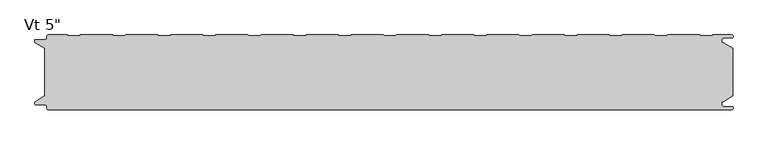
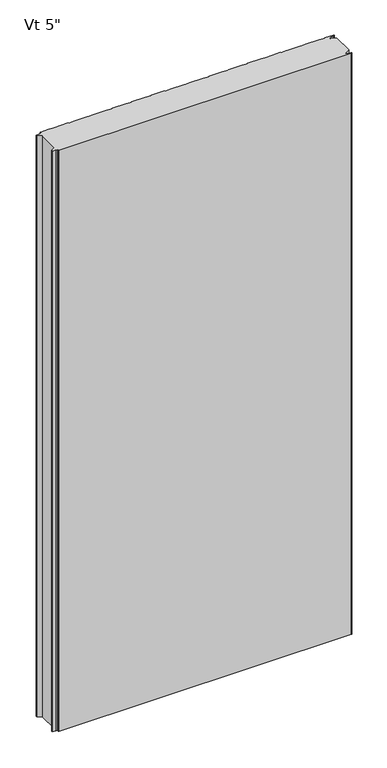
"""IFC4 building model written with IfcOpenShell, lengths in millimetres: plate geometry."""

import ifcopenshell
import ifcopenshell.guid

model = None  # the IFC model being written
_history = None  # IfcOwnerHistory: only IFC2X3 demands one
_inside = {}  # id of a spatial element -> (the spatial element, [elements in it])
_under = {}  # id of a project, library or spatial element -> (it, [spatial elements below it])
_declared = {}  # id of a project -> (the project, [libraries it declares])
_typed = {}  # id of a type object -> (the type object, [elements of that type])
_made_of = {}  # id of a material, layer set ... -> (it, [elements and type objects made of it])


def new_model(schema):
    """Start an empty IFC model of exactly this schema.

    Asked for "IFC4X3", IfcOpenShell would pick the latest addendum, in which some entities
    have other attributes; the version numbers below select the first issue.
    IFC2X3 requires an IfcOwnerHistory on every rooted entity: one is made here for all.
    """
    global model, _history
    if schema == "IFC4X3":
        model = ifcopenshell.file(schema_version=(4, 3, 0, 0))
    else:
        model = ifcopenshell.file(schema=schema)
    _inside.clear()
    _under.clear()
    _declared.clear()
    _typed.clear()
    _made_of.clear()
    _history = None
    if model.schema == "IFC2X3":
        org = make("IfcOrganization", Name="unknown")
        user = make(
            "IfcPersonAndOrganization",
            ThePerson=make("IfcPerson", FamilyName="unknown"),
            TheOrganization=org,
        )
        app = make(
            "IfcApplication",
            ApplicationDeveloper=org,
            Version="unknown",
            ApplicationFullName="unknown",
            ApplicationIdentifier="unknown",
        )
        _history = make(
            "IfcOwnerHistory",
            OwningUser=user,
            OwningApplication=app,
            ChangeAction="ADDED",
            CreationDate=0,
        )
    return model


def make(cls, **values):
    """One entity of the class cls with the attributes given. An attribute that is None is left unset."""
    return model.create_entity(
        cls, **{name: value for name, value in values.items() if value is not None}
    )


def rooted(cls, **values):
    """An entity with a GlobalId (a new one), such as an element, a storey or a relation."""
    return make(cls, GlobalId=ifcopenshell.guid.new(), OwnerHistory=_history, **values)


def si_unit(unit_type, name, prefix=None):
    """IfcSIUnit, for example si_unit("LENGTHUNIT", "METRE", prefix="MILLI")."""
    return make("IfcSIUnit", UnitType=unit_type, Prefix=prefix, Name=name)


def assignment(units):
    """IfcUnitAssignment: the units of a project."""
    return None if units is None else make("IfcUnitAssignment", Units=units)


def point(xyz):
    """IfcCartesianPoint."""
    return None if xyz is None else make("IfcCartesianPoint", Coordinates=xyz)


def direction(xyz):
    """IfcDirection."""
    return None if xyz is None else make("IfcDirection", DirectionRatios=xyz)


def frame(location, z_axis=None, x_axis=None):
    """IfcAxis2Placement3D, a coordinate frame: its origin and axes. An axis left out is left unset."""
    return make(
        "IfcAxis2Placement3D",
        Location=point(location),
        Axis=direction(z_axis),
        RefDirection=direction(x_axis),
    )


def origin():
    """The frame at (0, 0, 0) with its axes left unset."""
    return frame((0.0, 0.0, 0.0))


def place(relative_to, where):
    """IfcLocalPlacement: puts the frame where relative to a parent placement (None: the world)."""
    return make(
        "IfcLocalPlacement", PlacementRelTo=relative_to, RelativePlacement=where
    )


def context(
    kind, dimensions, precision=None, world=None, true_north=None, identifier=None
):
    """IfcGeometricRepresentationContext, for example the 3D "Model" context."""
    return make(
        "IfcGeometricRepresentationContext",
        ContextIdentifier=identifier,
        ContextType=kind,
        CoordinateSpaceDimension=dimensions,
        Precision=precision,
        WorldCoordinateSystem=world,
        TrueNorth=true_north,
    )


def project(units=None, contexts=None):
    """IfcProject with its units and contexts."""
    return rooted(
        "IfcProject",
        Name="project",
        RepresentationContexts=contexts,
        UnitsInContext=assignment(units),
    )


def spatial(cls, under=None, at=None, **own):
    """A site, building, storey or space (cls), placed at a placement, below another one or the project."""
    s = rooted(cls, ObjectPlacement=at, **own)
    if under is not None:
        _under.setdefault(under.id(), (under, []))[1].append(s)
    return s


def polyline(points):
    """IfcPolyline through the points."""
    return make("IfcPolyline", Points=[point(p) for p in points])


def circle_curve(where, radius):
    """IfcCircle in the frame where."""
    return make("IfcCircle", Position=where, Radius=radius)


def shape(context_of_items, identifier, shape_type, items):
    """IfcShapeRepresentation: the items that make up one representation, for example the "Body"."""
    return make(
        "IfcShapeRepresentation",
        ContextOfItems=context_of_items,
        RepresentationIdentifier=identifier,
        RepresentationType=shape_type,
        Items=items,
    )


def source(mapping_origin, context_of_items, identifier, shape_type, items):
    """IfcRepresentationMap: a shape defined once, which mapped items show again and again."""
    return make(
        "IfcRepresentationMap",
        MappingOrigin=mapping_origin,
        MappedRepresentation=shape(context_of_items, identifier, shape_type, items),
    )


def transform(
    local_origin,
    x_axis=None,
    y_axis=None,
    z_axis=None,
    scale=None,
    scale2=None,
    scale3=None,
    uniform=True,
):
    """IfcCartesianTransformationOperator3D, or its non-uniform kind. x_axis, y_axis, z_axis: its Axis1, 2, 3."""
    if uniform:
        return make(
            "IfcCartesianTransformationOperator3D",
            Axis1=direction(x_axis),
            Axis2=direction(y_axis),
            LocalOrigin=point(local_origin),
            Scale=scale,
            Axis3=direction(z_axis),
        )
    return make(
        "IfcCartesianTransformationOperator3DnonUniform",
        Axis1=direction(x_axis),
        Axis2=direction(y_axis),
        LocalOrigin=point(local_origin),
        Scale=scale,
        Axis3=direction(z_axis),
        Scale2=scale2,
        Scale3=scale3,
    )


def mapped(mapping_source, mapping_target):
    """IfcMappedItem: shows the shape of a source again, moved by a transform."""
    return make(
        "IfcMappedItem", MappingSource=mapping_source, MappingTarget=mapping_target
    )


def made_of(thing, what):
    """Note that an element or type object is made of a material, layer set ...; save() writes the relation."""
    if what is not None:
        _made_of.setdefault(what.id(), (what, []))[1].append(thing)
    return thing


def element(
    cls,
    number,
    at=None,
    inside=None,
    cuts=None,
    type_object=None,
    material=None,
    context=None,
    identifier="Body",
    shape_type=None,
    held_by="IfcProductDefinitionShape",
    body=None,
    shapes=None,
    **own,
):
    """One element of the class cls, such as IfcWall. Its Tag is "e" and its number.

    at: its placement. inside: the storey or other place that contains it. cuts: it is an
    opening in that element (IfcRelVoidsElement). A single representation is given by context,
    identifier, shape_type and body (its items); several are given by shapes. held_by: the class
    of the entity that holds the representations. save() writes the other relations.
    """
    e = rooted(cls, Tag="e%d" % number, ObjectPlacement=at, **own)
    if body is not None:
        shapes = [shape(context, identifier, shape_type, body)]
    if shapes is not None:
        e.Representation = make(held_by, Representations=shapes)
    if inside is not None:
        _inside.setdefault(inside.id(), (inside, []))[1].append(e)
    if cuts is not None:
        rooted(
            "IfcRelVoidsElement", RelatingBuildingElement=cuts, RelatedOpeningElement=e
        )
    if type_object is not None:
        _typed.setdefault(type_object.id(), (type_object, []))[1].append(e)
    return made_of(e, material)


def aggregate(whole, parts):
    """IfcRelAggregates: a whole, such as a stair, and the parts it consists of."""
    return rooted("IfcRelAggregates", RelatingObject=whole, RelatedObjects=parts)


def save(model, path):
    """Write the relations noted so far, then the file.

    IfcRelAggregates (storeys below a building ...), IfcRelContainedInSpatialStructure (elements
    in a storey), IfcRelDefinesByType, IfcRelAssociatesMaterial and IfcRelDeclares: one each for
    every whole, place, type object, material and project.
    """
    for whole, parts in _under.values():
        aggregate(whole, parts)
    for where, things in _inside.values():
        rooted(
            "IfcRelContainedInSpatialStructure",
            RelatedElements=things,
            RelatingStructure=where,
        )
    for kind, things in _typed.values():
        rooted("IfcRelDefinesByType", RelatedObjects=things, RelatingType=kind)
    for what, things in _made_of.values():
        rooted("IfcRelAssociatesMaterial", RelatedObjects=things, RelatingMaterial=what)
    for by, libraries in _declared.values():
        rooted("IfcRelDeclares", RelatingContext=by, RelatedDefinitions=libraries)
    model.write(path)


def plane_surface(at):
    """IfcPlane: the flat surface through the origin of the frame at, square to its z axis."""
    return make("IfcPlane", Position=at)


def cylinder_surface(at, radius):
    """IfcCylindricalSurface: all points at the distance radius from the z axis of the frame at."""
    return make("IfcCylindricalSurface", Position=at, Radius=radius)


def revolved_surface(curve, axis_point, axis_direction):
    """IfcSurfaceOfRevolution: the curve turned about the line through axis_point along axis_direction."""
    return make(
        "IfcSurfaceOfRevolution",
        SweptCurve=make("IfcArbitraryOpenProfileDef", ProfileType="CURVE", Curve=curve),
        AxisPosition=make("IfcAxis1Placement", Location=point(axis_point), Axis=direction(axis_direction)),
    )


def advanced_brep(points, edges, surfaces, faces):
    """IfcAdvancedBrep: a solid bounded by faces that lie on surfaces and meet in shared edges.

    An edge is (start, end): straight between two places in points (the first is 0);
    or (start, end, curve); or (start, end, curve, False) where it runs against its curve.
    A face is (place in surfaces, loops), or (place, loops, False) where it looks against
    its surface's normal. A loop lists edges by number (the first is 1), with a minus sign
    where the edge is run from its end to its start. The first loop is the outer one.
    """
    corners = [point(p) for p in points]
    vertices = [make("IfcVertexPoint", VertexGeometry=c) for c in corners]
    made = []
    for start, end, *more in edges:
        made.append(
            make(
                "IfcEdgeCurve",
                EdgeStart=vertices[start],
                EdgeEnd=vertices[end],
                EdgeGeometry=more[0] if more else make("IfcPolyline", Points=[corners[start], corners[end]]),
                SameSense=more[1] if len(more) > 1 else True,
            )
        )
    hull = []
    for where, loops, *sense in faces:
        bounds = []
        for j, loop in enumerate(loops):
            ring = [make("IfcOrientedEdge", EdgeElement=made[abs(k) - 1], Orientation=k > 0) for k in loop]
            bounds.append(
                make(
                    "IfcFaceOuterBound" if j == 0 else "IfcFaceBound",
                    Bound=make("IfcEdgeLoop", EdgeList=ring),
                    Orientation=True,
                )
            )
        hull.append(make("IfcAdvancedFace", Bounds=bounds, FaceSurface=surfaces[where], SameSense=sense[0] if sense else True))
    return make("IfcAdvancedBrep", Outer=make("IfcClosedShell", CfsFaces=hull))


def plate_694a5b55(model_context):
    return source(origin(), model_context, "Body", "AdvancedBrep", [
        advanced_brep(
        [(-572.4125501, -124.0227194, 2400.0), (-570.4352761, -125.9999935, 2400.0), (574.5475652, -126.0, 2400.0), (576.5248337, -124.0227315, 2400.0), (576.5248337, -122.9806329, 2400.0), (574.5475652, -121.0033643, 2400.0), (560.3591802, -121.0033643, 2400.0), (557.7713036, -118.4154878, 2400.0), (557.7713036, -114.0950697, 2400.0), (557.1628365, -113.5060762, 2400.0), (554.7857432, -113.5060762, 2400.0), (554.7857432, -112.5066023, 2400.0), (560.2280123, -112.5066023, 2400.0), (576.2625, -103.2490865, 2400.0), (576.2625, -23.7509179, 2400.0), (560.2280123, -14.4934021, 2400.0), (554.7857432, -14.4934021, 2400.0), (554.7857432, -13.4939282, 2400.0), (557.1628365, -13.4939282, 2400.0), (557.7713036, -12.9049347, 2400.0), (557.7713036, -8.5845165, 2400.0), (560.3591802, -5.99664, 2400.0), (574.5475652, -5.99664, 2400.0), (576.5248337, -4.0193715, 2400.0), (576.5248337, -2.9772729, 2400.0), (574.5475652, -1.0000044, 2400.0), (542.3760351, -1.0000044, 2400.0), (541.3035142, -2.1911595, 2400.0), (521.5205195, -2.1911595, 2400.0), (520.4479947, -1.0, 2400.0), (466.7534187, -1.0, 2400.0), (465.6808939, -2.1911595, 2400.0), (445.8978992, -2.1911595, 2400.0), (444.8253744, -1.0, 2400.0), (391.1307985, -1.0, 2400.0), (390.0582736, -2.1911595, 2400.0), (370.275279, -2.1911595, 2400.0), (369.2027541, -1.0, 2400.0), (315.5081782, -1.0, 2400.0), (314.4356534, -2.1911595, 2400.0), (294.6526587, -2.1911595, 2400.0), (293.5801339, -1.0, 2400.0), (239.885558, -1.0, 2400.0), (238.8130331, -2.1911595, 2400.0), (219.0300384, -2.1911595, 2400.0), (217.9575136, -1.0, 2400.0), (164.2629377, -1.0, 2400.0), (163.1904129, -2.1911595, 2400.0), (143.4074182, -2.1911595, 2400.0), (142.3348933, -1.0, 2400.0), (88.6403174, -1.0, 2400.0), (87.5677926, -2.1911595, 2400.0), (67.7847979, -2.1911595, 2400.0), (66.7122731, -1.0, 2400.0), (13.0176972, -1.0, 2400.0), (11.9451723, -2.1911595, 2400.0), (-7.8378224, -2.1911595, 2400.0), (-8.9103472, -1.0, 2400.0), (-62.6049231, -1.0, 2400.0), (-63.6774479, -2.1911595, 2400.0), (-83.4604426, -2.1911595, 2400.0), (-84.5329675, -1.0, 2400.0), (-138.2275434, -1.0, 2400.0), (-139.3000682, -2.1911595, 2400.0), (-159.0830629, -2.1911595, 2400.0), (-160.1555877, -1.0, 2400.0), (-213.8501636, -1.0, 2400.0), (-214.9226885, -2.1911595, 2400.0), (-234.7056831, -2.1911595, 2400.0), (-235.778208, -1.0, 2400.0), (-289.4727839, -1.0, 2400.0), (-290.5453087, -2.1911595, 2400.0), (-310.3283034, -2.1911595, 2400.0), (-311.4008282, -1.0, 2400.0), (-365.0954042, -1.0, 2400.0), (-366.167929, -2.1911595, 2400.0), (-385.9509237, -2.1911595, 2400.0), (-387.0234485, -1.0, 2400.0), (-440.7180244, -1.0, 2400.0), (-441.7905493, -2.1911595, 2400.0), (-461.5735439, -2.1911595, 2400.0), (-462.6460688, -1.0, 2400.0), (-516.3406447, -1.0, 2400.0), (-517.4131695, -2.1911595, 2400.0), (-537.1961642, -2.1911595, 2400.0), (-538.268689, -1.0000109, 2400.0), (-570.4352761, -1.0000109, 2400.0), (-572.4125501, -2.9772849, 2400.0), (-572.4125501, -5.2691749, 2400.0), (-576.3898173, -9.246442, 2400.0), (-591.9862417, -9.246442, 2400.0), (-592.5741186, -9.8343189, 2400.0), (-592.5741186, -12.9058679, 2400.0), (-591.986242, -13.4937446, 2400.0), (-589.6312064, -13.4937446, 2400.0), (-589.6312064, -14.4937446, 2400.0), (-591.9207851, -14.4937446, 2400.0), (-576.2625, -23.7509179, 2400.0), (-576.2625, -103.2490865, 2400.0), (-591.9207851, -112.5062598, 2400.0), (-589.6312064, -112.5062598, 2400.0), (-589.6312064, -113.5062598, 2400.0), (-591.986242, -113.5062598, 2400.0), (-592.5741186, -114.0941365, 2400.0), (-592.5741186, -117.1656854, 2400.0), (-591.9862417, -117.7535623, 2400.0), (-576.3898173, -117.7535623, 2400.0), (-572.4125501, -121.7308295, 2400.0), (-572.4125501, -124.0227194, 0.0), (-572.4125501, -121.7308295, 0.0), (-576.3898173, -117.7535623, 0.0), (-591.9862417, -117.7535623, 0.0), (-592.5741186, -117.1656854, 0.0), (-592.5741186, -114.0941365, 0.0), (-591.986242, -113.5062598, 0.0), (-589.6312064, -113.5062598, 0.0), (-589.6312064, -112.5062598, 0.0), (-591.9207851, -112.5062598, 0.0), (-576.2625, -103.2490865, 0.0), (-576.2625, -23.7509179, 0.0), (-591.9207851, -14.4937446, 0.0), (-589.6312064, -14.4937446, 0.0), (-589.6312064, -13.4937446, 0.0), (-591.986242, -13.4937446, 0.0), (-592.5741186, -12.9058679, 0.0), (-592.5741186, -9.8343189, 0.0), (-591.9862417, -9.246442, 0.0), (-576.3898173, -9.246442, 0.0), (-572.4125501, -5.2691749, 0.0), (-572.4125501, -2.9772849, 0.0), (-570.4352761, -1.0000109, 0.0), (-538.268689, -1.0000109, 0.0), (-537.1961642, -2.1911595, 0.0), (-517.4131695, -2.1911595, 0.0), (-516.3406447, -1.0, 0.0), (-462.6460688, -1.0, 0.0), (-461.5735439, -2.1911595, 0.0), (-441.7905493, -2.1911595, 0.0), (-440.7180244, -1.0, 0.0), (-387.0234485, -1.0, 0.0), (-385.9509237, -2.1911595, 0.0), (-366.167929, -2.1911595, 0.0), (-365.0954042, -1.0, 0.0), (-311.4008282, -1.0, 0.0), (-310.3283034, -2.1911595, 0.0), (-290.5453087, -2.1911595, 0.0), (-289.4727839, -1.0, 0.0), (-235.778208, -1.0, 0.0), (-234.7056831, -2.1911595, 0.0), (-214.9226885, -2.1911595, 0.0), (-213.8501636, -1.0, 0.0), (-160.1555877, -1.0, 0.0), (-159.0830629, -2.1911595, 0.0), (-139.3000682, -2.1911595, 0.0), (-138.2275434, -1.0, 0.0), (-84.5329675, -1.0, 0.0), (-83.4604426, -2.1911595, 0.0), (-63.6774479, -2.1911595, 0.0), (-62.6049231, -1.0, 0.0), (-8.9103472, -1.0, 0.0), (-7.8378224, -2.1911595, 0.0), (11.9451723, -2.1911595, 0.0), (13.0176972, -1.0, 0.0), (66.7122731, -1.0, 0.0), (67.7847979, -2.1911595, 0.0), (87.5677926, -2.1911595, 0.0), (88.6403174, -1.0, 0.0), (142.3348933, -1.0, 0.0), (143.4074182, -2.1911595, 0.0), (163.1904129, -2.1911595, 0.0), (164.2629377, -1.0, 0.0), (217.9575136, -1.0, 0.0), (219.0300384, -2.1911595, 0.0), (238.8130331, -2.1911595, 0.0), (239.885558, -1.0, 0.0), (293.5801339, -1.0, 0.0), (294.6526587, -2.1911595, 0.0), (314.4356534, -2.1911595, 0.0), (315.5081782, -1.0, 0.0), (369.2027541, -1.0, 0.0), (370.275279, -2.1911595, 0.0), (390.0582736, -2.1911595, 0.0), (391.1307985, -1.0, 0.0), (444.8253744, -1.0, 0.0), (445.8978992, -2.1911595, 0.0), (465.6808939, -2.1911595, 0.0), (466.7534187, -1.0, 0.0), (520.4479947, -1.0, 0.0), (521.5205195, -2.1911595, 0.0), (541.3035142, -2.1911595, 0.0), (542.3760351, -1.0000044, 0.0), (574.5475652, -1.0000044, 0.0), (576.5248337, -2.9772729, 0.0), (576.5248337, -4.0193715, 0.0), (574.5475652, -5.99664, 0.0), (560.3591802, -5.99664, 0.0), (557.7713036, -8.5845165, 0.0), (557.7713036, -12.9049347, 0.0), (557.1628365, -13.4939282, 0.0), (554.7857432, -13.4939282, 0.0), (554.7857432, -14.4934021, 0.0), (560.2280123, -14.4934021, 0.0), (576.2625, -23.7509179, 0.0), (576.2625, -103.2490865, 0.0), (560.2280123, -112.5066023, 0.0), (554.7857432, -112.5066023, 0.0), (554.7857432, -113.5060762, 0.0), (557.1628365, -113.5060762, 0.0), (557.7713036, -114.0950697, 0.0), (557.7713036, -118.4154878, 0.0), (560.3591802, -121.0033643, 0.0), (574.5475652, -121.0033643, 0.0), (576.5248337, -122.9806329, 0.0), (576.5248337, -124.0227315, 0.0), (574.5475652, -126.0, 0.0), (-570.4352761, -126.0, 0.0)],
        [
            (0, 1, circle_curve(frame((-570.4352761, -124.0227194, 2400.0), z_axis=(0.0, 0.0, 1.0), x_axis=(-1.0, 0.0, 0.0)), 1.977274)),
            (1, 2),
            (2, 3, circle_curve(frame((574.5475652, -124.0227315, 2400.0), z_axis=(0.0, 0.0, 1.0), x_axis=(-1.0, 0.0, 0.0)), 1.9772685)),
            (3, 4),
            (4, 5, circle_curve(frame((574.5475652, -122.9806329, 2400.0), z_axis=(0.0, 0.0, 1.0), x_axis=(-1.0, 0.0, 0.0)), 1.9772685)),
            (5, 6),
            (6, 7, circle_curve(frame((560.3591802, -118.4154878, 2400.0), z_axis=(0.0, 0.0, -1.0), x_axis=(-1.0, 0.0, 0.0)), 2.5878765)),
            (7, 8),
            (8, 9, circle_curve(frame((557.1819985, -114.0950697, 2400.0), z_axis=(0.0, 0.0, 1.0), x_axis=(-1.0, 0.0, 0.0)), 0.5893051)),
            (9, 10),
            (10, 11),
            (11, 12),
            (12, 13),
            (13, 14),
            (14, 15),
            (15, 16),
            (16, 17),
            (17, 18),
            (18, 19, circle_curve(frame((557.1819985, -12.9049347, 2400.0), z_axis=(0.0, 0.0, 1.0), x_axis=(0.0, 1.0, 0.0)), 0.5893051)),
            (19, 20),
            (20, 21, circle_curve(frame((560.3591802, -8.5845165, 2400.0), z_axis=(0.0, 0.0, -1.0), x_axis=(0.0, 1.0, 0.0)), 2.5878765)),
            (21, 22),
            (22, 23, circle_curve(frame((574.5475652, -4.0193715, 2400.0), z_axis=(0.0, 0.0, 1.0), x_axis=(0.0, 1.0, 0.0)), 1.9772685)),
            (23, 24),
            (24, 25, circle_curve(frame((574.5475652, -2.9772729, 2400.0), z_axis=(0.0, 0.0, 1.0), x_axis=(0.0, 1.0, 0.0)), 1.9772685)),
            (25, 26),
            (26, 27),
            (27, 28),
            (28, 29),
            (29, 30),
            (30, 31),
            (31, 32),
            (32, 33),
            (33, 34),
            (34, 35),
            (35, 36),
            (36, 37),
            (37, 38),
            (38, 39),
            (39, 40),
            (40, 41),
            (41, 42),
            (42, 43),
            (43, 44),
            (44, 45),
            (45, 46),
            (46, 47),
            (47, 48),
            (48, 49),
            (49, 50),
            (50, 51),
            (51, 52),
            (52, 53),
            (53, 54),
            (54, 55),
            (55, 56),
            (56, 57),
            (57, 58),
            (58, 59),
            (59, 60),
            (60, 61),
            (61, 62),
            (62, 63),
            (63, 64),
            (64, 65),
            (65, 66),
            (66, 67),
            (67, 68),
            (68, 69),
            (69, 70),
            (70, 71),
            (71, 72),
            (72, 73),
            (73, 74),
            (74, 75),
            (75, 76),
            (76, 77),
            (77, 78),
            (78, 79),
            (79, 80),
            (80, 81),
            (81, 82),
            (82, 83),
            (83, 84),
            (84, 85),
            (85, 86),
            (86, 87, circle_curve(frame((-570.4352761, -2.9772849, 2400.0), z_axis=(0.0, 0.0, 1.0), x_axis=(0.0, 1.0, 0.0)), 1.977274)),
            (87, 88),
            (88, 89, circle_curve(frame((-576.3898173, -5.2691749, 2400.0), z_axis=(0.0, 0.0, -1.0), x_axis=(0.0, 1.0, 0.0)), 3.9772671)),
            (89, 90),
            (90, 91, circle_curve(frame((-591.9862417, -9.8343189, 2400.0), z_axis=(0.0, 0.0, 1.0), x_axis=(0.0, 1.0, 0.0)), 0.5878769)),
            (91, 92),
            (92, 93, circle_curve(frame((-591.986242, -12.9058679, 2400.0), z_axis=(0.0, 0.0, 1.0), x_axis=(0.0, 1.0, 0.0)), 0.5878766)),
            (93, 94),
            (94, 95),
            (95, 96),
            (96, 97),
            (97, 98),
            (98, 99),
            (99, 100),
            (100, 101),
            (101, 102),
            (102, 103, circle_curve(frame((-591.986242, -114.0941365, 2400.0), z_axis=(0.0, 0.0, 1.0), x_axis=(-1.0, 0.0, 0.0)), 0.5878766)),
            (103, 104),
            (104, 105, circle_curve(frame((-591.9862417, -117.1656854, 2400.0), z_axis=(0.0, 0.0, 1.0), x_axis=(-1.0, 0.0, 0.0)), 0.5878769)),
            (105, 106),
            (106, 107, circle_curve(frame((-576.3898173, -121.7308295, 2400.0), z_axis=(0.0, 0.0, -1.0), x_axis=(-1.0, 0.0, 0.0)), 3.9772671)),
            (107, 0),
            (108, 109),
            (109, 110, circle_curve(frame((-576.3898173, -121.7308295, 0.0), z_axis=(0.0, 0.0, 1.0), x_axis=(-1.0, 0.0, 0.0)), 3.9772671)),
            (110, 111),
            (111, 112, circle_curve(frame((-591.9862417, -117.1656854, 0.0), z_axis=(0.0, 0.0, -1.0), x_axis=(-1.0, 0.0, 0.0)), 0.5878769)),
            (112, 113),
            (113, 114, circle_curve(frame((-591.986242, -114.0941365, 0.0), z_axis=(0.0, 0.0, -1.0), x_axis=(-1.0, 0.0, 0.0)), 0.5878766)),
            (114, 115),
            (115, 116),
            (116, 117),
            (117, 118),
            (118, 119),
            (119, 120),
            (120, 121),
            (121, 122),
            (122, 123),
            (123, 124, circle_curve(frame((-591.986242, -12.9058679, 0.0), z_axis=(0.0, 0.0, -1.0), x_axis=(0.0, 1.0, 0.0)), 0.5878766)),
            (124, 125),
            (125, 126, circle_curve(frame((-591.9862417, -9.8343189, 0.0), z_axis=(0.0, 0.0, -1.0), x_axis=(0.0, 1.0, 0.0)), 0.5878769)),
            (126, 127),
            (127, 128, circle_curve(frame((-576.3898173, -5.2691749, 0.0), z_axis=(0.0, 0.0, 1.0), x_axis=(0.0, 1.0, 0.0)), 3.9772671)),
            (128, 129),
            (129, 130, circle_curve(frame((-570.4352761, -2.9772849, 0.0), z_axis=(0.0, 0.0, -1.0), x_axis=(0.0, 1.0, 0.0)), 1.977274)),
            (130, 131),
            (131, 132),
            (132, 133),
            (133, 134),
            (134, 135),
            (135, 136),
            (136, 137),
            (137, 138),
            (138, 139),
            (139, 140),
            (140, 141),
            (141, 142),
            (142, 143),
            (143, 144),
            (144, 145),
            (145, 146),
            (146, 147),
            (147, 148),
            (148, 149),
            (149, 150),
            (150, 151),
            (151, 152),
            (152, 153),
            (153, 154),
            (154, 155),
            (155, 156),
            (156, 157),
            (157, 158),
            (158, 159),
            (159, 160),
            (160, 161),
            (161, 162),
            (162, 163),
            (163, 164),
            (164, 165),
            (165, 166),
            (166, 167),
            (167, 168),
            (168, 169),
            (169, 170),
            (170, 171),
            (171, 172),
            (172, 173),
            (173, 174),
            (174, 175),
            (175, 176),
            (176, 177),
            (177, 178),
            (178, 179),
            (179, 180),
            (180, 181),
            (181, 182),
            (182, 183),
            (183, 184),
            (184, 185),
            (185, 186),
            (186, 187),
            (187, 188),
            (188, 189),
            (189, 190),
            (190, 191),
            (191, 192, circle_curve(frame((574.5475652, -2.9772729, 0.0), z_axis=(0.0, 0.0, -1.0), x_axis=(0.0, 1.0, 0.0)), 1.9772685)),
            (192, 193),
            (193, 194, circle_curve(frame((574.5475652, -4.0193715, 0.0), z_axis=(0.0, 0.0, -1.0), x_axis=(0.0, 1.0, 0.0)), 1.9772685)),
            (194, 195),
            (195, 196, circle_curve(frame((560.3591802, -8.5845165, 0.0), z_axis=(0.0, 0.0, 1.0), x_axis=(0.0, 1.0, 0.0)), 2.5878765)),
            (196, 197),
            (197, 198, circle_curve(frame((557.1819985, -12.9049347, 0.0), z_axis=(0.0, 0.0, -1.0), x_axis=(0.0, 1.0, 0.0)), 0.5893051)),
            (198, 199),
            (199, 200),
            (200, 201),
            (201, 202),
            (202, 203),
            (203, 204),
            (204, 205),
            (205, 206),
            (206, 207),
            (207, 208, circle_curve(frame((557.1819985, -114.0950697, 0.0), z_axis=(0.0, 0.0, -1.0), x_axis=(-1.0, 0.0, 0.0)), 0.5893051)),
            (208, 209),
            (209, 210, circle_curve(frame((560.3591802, -118.4154878, 0.0), z_axis=(0.0, 0.0, 1.0), x_axis=(-1.0, 0.0, 0.0)), 2.5878765)),
            (210, 211),
            (211, 212, circle_curve(frame((574.5475652, -122.9806329, 0.0), z_axis=(0.0, 0.0, -1.0), x_axis=(-1.0, 0.0, 0.0)), 1.9772685)),
            (212, 213),
            (213, 214, circle_curve(frame((574.5475652, -124.0227315, 0.0), z_axis=(0.0, 0.0, -1.0), x_axis=(-1.0, 0.0, 0.0)), 1.9772685)),
            (214, 215),
            (215, 108, circle_curve(frame((-570.4352761, -124.0227194, 0.0), z_axis=(0.0, 0.0, -1.0), x_axis=(-1.0, 0.0, 0.0)), 1.977274)),
            (97, 119),
            (118, 98),
            (13, 203),
            (202, 14),
            (27, 189),
            (188, 28),
            (26, 190),
            (25, 191),
            (24, 192),
            (23, 193),
            (22, 194),
            (21, 195),
            (20, 196),
            (19, 197),
            (18, 198),
            (17, 199),
            (16, 200),
            (15, 201),
            (96, 120),
            (95, 121),
            (94, 122),
            (93, 123),
            (92, 124),
            (91, 125),
            (90, 126),
            (89, 127),
            (88, 128),
            (87, 129),
            (86, 130),
            (85, 131),
            (84, 132),
            (83, 133),
            (82, 134),
            (81, 135),
            (80, 136),
            (79, 137),
            (78, 138),
            (77, 139),
            (76, 140),
            (75, 141),
            (74, 142),
            (73, 143),
            (72, 144),
            (71, 145),
            (70, 146),
            (69, 147),
            (68, 148),
            (67, 149),
            (66, 150),
            (65, 151),
            (64, 152),
            (63, 153),
            (62, 154),
            (61, 155),
            (60, 156),
            (59, 157),
            (58, 158),
            (57, 159),
            (56, 160),
            (55, 161),
            (54, 162),
            (53, 163),
            (52, 164),
            (51, 165),
            (50, 166),
            (49, 167),
            (48, 168),
            (47, 169),
            (46, 170),
            (45, 171),
            (44, 172),
            (43, 173),
            (42, 174),
            (41, 175),
            (40, 176),
            (39, 177),
            (38, 178),
            (37, 179),
            (36, 180),
            (35, 181),
            (34, 182),
            (33, 183),
            (32, 184),
            (31, 185),
            (30, 186),
            (29, 187),
            (107, 109),
            (108, 0),
            (106, 110),
            (105, 111),
            (104, 112),
            (103, 113),
            (102, 114),
            (101, 115),
            (100, 116),
            (99, 117),
            (12, 204),
            (11, 205),
            (10, 206),
            (9, 207),
            (8, 208),
            (7, 209),
            (6, 210),
            (5, 211),
            (4, 212),
            (3, 213),
            (2, 214),
            (1, 215),
        ],
        [
            plane_surface(frame((0.0, -126.0, 2400.0), z_axis=(0.0, 0.0, 1.0), x_axis=(0.0, -1.0, 0.0))),
            plane_surface(frame((0.0, -126.0, 0.0), z_axis=(0.0, 0.0, -1.0), x_axis=(0.0, -1.0, 0.0))),
            plane_surface(frame((-576.2625, -103.2490865, 2400.0), z_axis=(-1.0, 0.0, 0.0), x_axis=(0.0, 0.0, -1.0))),
            plane_surface(frame((576.2625, -23.7509179, 2400.0), z_axis=(1.0, 0.0, 0.0), x_axis=(0.0, 0.0, -1.0))),
            plane_surface(frame((521.5205195, -2.1911595, 2400.0), z_axis=(0.0, 1.0, 0.0), x_axis=(0.0, 0.0, -1.0))),
            plane_surface(frame((541.3035142, -2.1911595, 2400.0), z_axis=(-0.7431448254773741, 0.6691306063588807, 0.0), x_axis=(0.0, 0.0, -1.0))),
            plane_surface(frame((542.3760351, -1.0000044, 2400.0), z_axis=(0.0, 1.0, 0.0), x_axis=(0.0, 0.0, -1.0))),
            cylinder_surface(frame((574.5475652, -2.9772729, 2400.0), z_axis=(0.0, 0.0, 1.0), x_axis=(0.0, 1.0, 0.0)), 1.9772685),
            plane_surface(frame((576.5248337, -2.9772729, 2400.0), z_axis=(1.0, 0.0, 0.0), x_axis=(0.0, 0.0, -1.0))),
            cylinder_surface(frame((574.5475652, -4.0193715, 2400.0), z_axis=(0.0, 0.0, 1.0), x_axis=(0.0, 1.0, 0.0)), 1.9772685),
            plane_surface(frame((574.5475652, -5.99664, 2400.0), z_axis=(0.0, -1.0, 0.0), x_axis=(0.0, 0.0, -1.0))),
            revolved_surface(polyline([(560.3591802, -5.996639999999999, 0.0), (560.3591802, -5.996639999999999, 2400.0)]), (560.3591802, -8.5845165, 2400.0), (0.0, 0.0, -1.0)),
            plane_surface(frame((557.7713036, -8.5845165, 2400.0), z_axis=(1.0, 0.0, 0.0), x_axis=(0.0, 0.0, -1.0))),
            cylinder_surface(frame((557.1819985, -12.9049347, 2400.0), z_axis=(0.0, 0.0, 1.0), x_axis=(0.0, 1.0, 0.0)), 0.5893051),
            plane_surface(frame((557.1628365, -13.4939282, 2400.0), z_axis=(0.0, -1.0, 0.0), x_axis=(0.0, 0.0, -1.0))),
            plane_surface(frame((554.7857432, -13.4939282, 2400.0), z_axis=(1.0, 0.0, 0.0), x_axis=(0.0, 0.0, -1.0))),
            plane_surface(frame((554.7857432, -14.4934021, 2400.0), z_axis=(0.0, 1.0, 0.0), x_axis=(0.0, 0.0, -1.0))),
            plane_surface(frame((560.2280123, -14.4934021, 2400.0), z_axis=(0.5000000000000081, 0.866025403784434, 0.0), x_axis=(0.0, 0.0, -1.0))),
            plane_surface(frame((-576.2625, -23.7509179, 2400.0), z_axis=(-0.5089147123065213, -0.860816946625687, 0.0), x_axis=(0.0, 0.0, -1.0))),
            plane_surface(frame((-591.9207851, -14.4937446, 2400.0), z_axis=(0.0, 1.0, 0.0), x_axis=(0.0, 0.0, -1.0))),
            plane_surface(frame((-589.6312064, -14.4937446, 2400.0), z_axis=(-1.0, 0.0, 0.0), x_axis=(0.0, 0.0, -1.0))),
            plane_surface(frame((-589.6312064, -13.4937446, 2400.0), z_axis=(0.0, -1.0, 0.0), x_axis=(0.0, 0.0, -1.0))),
            cylinder_surface(frame((-591.986242, -12.9058679, 2400.0), z_axis=(0.0, 0.0, 1.0), x_axis=(0.0, 1.0, 0.0)), 0.5878766),
            plane_surface(frame((-592.5741186, -12.9058679, 2400.0), z_axis=(-1.0, 0.0, 0.0), x_axis=(0.0, 0.0, -1.0))),
            cylinder_surface(frame((-591.9862417, -9.8343189, 2400.0), z_axis=(0.0, 0.0, 1.0), x_axis=(0.0, 1.0, 0.0)), 0.5878769),
            plane_surface(frame((-591.9862417, -9.246442, 2400.0), z_axis=(0.0, 1.0, 0.0), x_axis=(0.0, 0.0, -1.0))),
            revolved_surface(polyline([(-576.3898173, -1.2919078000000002, 0.0), (-576.3898173, -1.2919078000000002, 2400.0)]), (-576.3898173, -5.2691749, 2400.0), (0.0, 0.0, -1.0)),
            plane_surface(frame((-572.4125501, -5.2691749, 2400.0), z_axis=(-1.0, 0.0, 0.0), x_axis=(0.0, 0.0, -1.0))),
            cylinder_surface(frame((-570.4352761, -2.9772849, 2400.0), z_axis=(0.0, 0.0, 1.0), x_axis=(0.0, 1.0, 0.0)), 1.977274),
            plane_surface(frame((-570.4352761, -1.0000109, 2400.0), z_axis=(0.0, 1.0, 0.0), x_axis=(0.0, 0.0, -1.0))),
            plane_surface(frame((-538.268689, -1.0000109, 2400.0), z_axis=(0.7431417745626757, 0.669133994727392, 0.0), x_axis=(0.0, 0.0, -1.0))),
            plane_surface(frame((-537.1961642, -2.1911595, 2400.0), z_axis=(0.0, 1.0, 0.0), x_axis=(0.0, 0.0, -1.0))),
            plane_surface(frame((-517.4131695, -2.1911595, 2400.0), z_axis=(-0.7431448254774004, 0.6691306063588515, 0.0), x_axis=(0.0, 0.0, -1.0))),
            plane_surface(frame((-516.3406447, -1.0, 2400.0), z_axis=(0.0, 1.0, 0.0), x_axis=(0.0, 0.0, -1.0))),
            plane_surface(frame((-462.6460688, -1.0, 2400.0), z_axis=(0.7431448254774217, 0.6691306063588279, 0.0), x_axis=(0.0, 0.0, -1.0))),
            plane_surface(frame((-461.5735439, -2.1911595, 2400.0), z_axis=(0.0, 1.0, 0.0), x_axis=(0.0, 0.0, -1.0))),
            plane_surface(frame((-441.7905493, -2.1911595, 2400.0), z_axis=(-0.7431448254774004, 0.6691306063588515, 0.0), x_axis=(0.0, 0.0, -1.0))),
            plane_surface(frame((-440.7180244, -1.0, 2400.0), z_axis=(0.0, 1.0, 0.0), x_axis=(0.0, 0.0, -1.0))),
            plane_surface(frame((-387.0234485, -1.0, 2400.0), z_axis=(0.7431448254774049, 0.6691306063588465, 0.0), x_axis=(0.0, 0.0, -1.0))),
            plane_surface(frame((-385.9509237, -2.1911595, 2400.0), z_axis=(0.0, 1.0, 0.0), x_axis=(0.0, 0.0, -1.0))),
            plane_surface(frame((-366.167929, -2.1911595, 2400.0), z_axis=(-0.7431448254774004, 0.6691306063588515, 0.0), x_axis=(0.0, 0.0, -1.0))),
            plane_surface(frame((-365.0954042, -1.0, 2400.0), z_axis=(0.0, 1.0, 0.0), x_axis=(0.0, 0.0, -1.0))),
            plane_surface(frame((-311.4008282, -1.0, 2400.0), z_axis=(0.7431448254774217, 0.6691306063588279, 0.0), x_axis=(0.0, 0.0, -1.0))),
            plane_surface(frame((-310.3283034, -2.1911595, 2400.0), z_axis=(0.0, 1.0, 0.0), x_axis=(0.0, 0.0, -1.0))),
            plane_surface(frame((-290.5453087, -2.1911595, 2400.0), z_axis=(-0.7431448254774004, 0.6691306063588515, 0.0), x_axis=(0.0, 0.0, -1.0))),
            plane_surface(frame((-289.4727839, -1.0, 2400.0), z_axis=(0.0, 1.0, 0.0), x_axis=(0.0, 0.0, -1.0))),
            plane_surface(frame((-235.778208, -1.0, 2400.0), z_axis=(0.7431448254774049, 0.6691306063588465, 0.0), x_axis=(0.0, 0.0, -1.0))),
            plane_surface(frame((-234.7056831, -2.1911595, 2400.0), z_axis=(0.0, 1.0, 0.0), x_axis=(0.0, 0.0, -1.0))),
            plane_surface(frame((-214.9226885, -2.1911595, 2400.0), z_axis=(-0.7431448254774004, 0.6691306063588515, 0.0), x_axis=(0.0, 0.0, -1.0))),
            plane_surface(frame((-213.8501636, -1.0, 2400.0), z_axis=(0.0, 1.0, 0.0), x_axis=(0.0, 0.0, -1.0))),
            plane_surface(frame((-160.1555877, -1.0, 2400.0), z_axis=(0.7431448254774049, 0.6691306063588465, 0.0), x_axis=(0.0, 0.0, -1.0))),
            plane_surface(frame((-159.0830629, -2.1911595, 2400.0), z_axis=(0.0, 1.0, 0.0), x_axis=(0.0, 0.0, -1.0))),
            plane_surface(frame((-139.3000682, -2.1911595, 2400.0), z_axis=(-0.7431448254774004, 0.6691306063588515, 0.0), x_axis=(0.0, 0.0, -1.0))),
            plane_surface(frame((-138.2275434, -1.0, 2400.0), z_axis=(0.0, 1.0, 0.0), x_axis=(0.0, 0.0, -1.0))),
            plane_surface(frame((-84.5329675, -1.0, 2400.0), z_axis=(0.7431448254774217, 0.6691306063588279, 0.0), x_axis=(0.0, 0.0, -1.0))),
            plane_surface(frame((-83.4604426, -2.1911595, 2400.0), z_axis=(0.0, 1.0, 0.0), x_axis=(0.0, 0.0, -1.0))),
            plane_surface(frame((-63.6774479, -2.1911595, 2400.0), z_axis=(-0.7431448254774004, 0.6691306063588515, 0.0), x_axis=(0.0, 0.0, -1.0))),
            plane_surface(frame((-62.6049231, -1.0, 2400.0), z_axis=(0.0, 1.0, 0.0), x_axis=(0.0, 0.0, -1.0))),
            plane_surface(frame((-8.9103472, -1.0, 2400.0), z_axis=(0.7431448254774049, 0.6691306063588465, 0.0), x_axis=(0.0, 0.0, -1.0))),
            plane_surface(frame((-7.8378224, -2.1911595, 2400.0), z_axis=(0.0, 1.0, 0.0), x_axis=(0.0, 0.0, -1.0))),
            plane_surface(frame((11.9451723, -2.1911595, 2400.0), z_axis=(-0.7431448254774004, 0.6691306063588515, 0.0), x_axis=(0.0, 0.0, -1.0))),
            plane_surface(frame((13.0176972, -1.0, 2400.0), z_axis=(0.0, 1.0, 0.0), x_axis=(0.0, 0.0, -1.0))),
            plane_surface(frame((66.7122731, -1.0, 2400.0), z_axis=(0.7431448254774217, 0.6691306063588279, 0.0), x_axis=(0.0, 0.0, -1.0))),
            plane_surface(frame((67.7847979, -2.1911595, 2400.0), z_axis=(0.0, 1.0, 0.0), x_axis=(0.0, 0.0, -1.0))),
            plane_surface(frame((87.5677926, -2.1911595, 2400.0), z_axis=(-0.7431448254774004, 0.6691306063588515, 0.0), x_axis=(0.0, 0.0, -1.0))),
            plane_surface(frame((88.6403174, -1.0, 2400.0), z_axis=(0.0, 1.0, 0.0), x_axis=(0.0, 0.0, -1.0))),
            plane_surface(frame((142.3348933, -1.0, 2400.0), z_axis=(0.7431448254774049, 0.6691306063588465, 0.0), x_axis=(0.0, 0.0, -1.0))),
            plane_surface(frame((143.4074182, -2.1911595, 2400.0), z_axis=(0.0, 1.0, 0.0), x_axis=(0.0, 0.0, -1.0))),
            plane_surface(frame((163.1904129, -2.1911595, 2400.0), z_axis=(-0.7431448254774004, 0.6691306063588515, 0.0), x_axis=(0.0, 0.0, -1.0))),
            plane_surface(frame((164.2629377, -1.0, 2400.0), z_axis=(0.0, 1.0, 0.0), x_axis=(0.0, 0.0, -1.0))),
            plane_surface(frame((217.9575136, -1.0, 2400.0), z_axis=(0.7431448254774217, 0.6691306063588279, 0.0), x_axis=(0.0, 0.0, -1.0))),
            plane_surface(frame((219.0300384, -2.1911595, 2400.0), z_axis=(0.0, 1.0, 0.0), x_axis=(0.0, 0.0, -1.0))),
            plane_surface(frame((238.8130331, -2.1911595, 2400.0), z_axis=(-0.7431448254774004, 0.6691306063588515, 0.0), x_axis=(0.0, 0.0, -1.0))),
            plane_surface(frame((239.885558, -1.0, 2400.0), z_axis=(0.0, 1.0, 0.0), x_axis=(0.0, 0.0, -1.0))),
            plane_surface(frame((293.5801339, -1.0, 2400.0), z_axis=(0.7431448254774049, 0.6691306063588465, 0.0), x_axis=(0.0, 0.0, -1.0))),
            plane_surface(frame((294.6526587, -2.1911595, 2400.0), z_axis=(0.0, 1.0, 0.0), x_axis=(0.0, 0.0, -1.0))),
            plane_surface(frame((314.4356534, -2.1911595, 2400.0), z_axis=(-0.7431448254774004, 0.6691306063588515, 0.0), x_axis=(0.0, 0.0, -1.0))),
            plane_surface(frame((315.5081782, -1.0, 2400.0), z_axis=(0.0, 1.0, 0.0), x_axis=(0.0, 0.0, -1.0))),
            plane_surface(frame((369.2027541, -1.0, 2400.0), z_axis=(0.7431448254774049, 0.6691306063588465, 0.0), x_axis=(0.0, 0.0, -1.0))),
            plane_surface(frame((370.275279, -2.1911595, 2400.0), z_axis=(0.0, 1.0, 0.0), x_axis=(0.0, 0.0, -1.0))),
            plane_surface(frame((390.0582736, -2.1911595, 2400.0), z_axis=(-0.7431448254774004, 0.6691306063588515, 0.0), x_axis=(0.0, 0.0, -1.0))),
            plane_surface(frame((391.1307985, -1.0, 2400.0), z_axis=(0.0, 1.0, 0.0), x_axis=(0.0, 0.0, -1.0))),
            plane_surface(frame((444.8253744, -1.0, 2400.0), z_axis=(0.7431448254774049, 0.6691306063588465, 0.0), x_axis=(0.0, 0.0, -1.0))),
            plane_surface(frame((445.8978992, -2.1911595, 2400.0), z_axis=(0.0, 1.0, 0.0), x_axis=(0.0, 0.0, -1.0))),
            plane_surface(frame((465.6808939, -2.1911595, 2400.0), z_axis=(-0.7431448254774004, 0.6691306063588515, 0.0), x_axis=(0.0, 0.0, -1.0))),
            plane_surface(frame((466.7534187, -1.0, 2400.0), z_axis=(0.0, 1.0, 0.0), x_axis=(0.0, 0.0, -1.0))),
            plane_surface(frame((520.4479947, -1.0, 2400.0), z_axis=(0.7431448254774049, 0.6691306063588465, 0.0), x_axis=(0.0, 0.0, -1.0))),
            plane_surface(frame((-572.4125501, -124.0227194, 2400.0), z_axis=(-1.0, 0.0, 0.0), x_axis=(0.0, 0.0, -1.0))),
            revolved_surface(polyline([(-580.3670844, -121.7308295, 0.0), (-580.3670844, -121.7308295, 2400.0)]), (-576.3898173, -121.7308295, 2400.0), (0.0, 0.0, -1.0)),
            plane_surface(frame((-576.3898173, -117.7535623, 2400.0), z_axis=(0.0, -1.0, 0.0), x_axis=(0.0, 0.0, -1.0))),
            cylinder_surface(frame((-591.9862417, -117.1656854, 2400.0), z_axis=(0.0, 0.0, 1.0), x_axis=(-1.0, 0.0, 0.0)), 0.5878769),
            plane_surface(frame((-592.5741186, -117.1656854, 2400.0), z_axis=(-1.0, 0.0, 0.0), x_axis=(0.0, 0.0, -1.0))),
            cylinder_surface(frame((-591.986242, -114.0941365, 2400.0), z_axis=(0.0, 0.0, 1.0), x_axis=(-1.0, 0.0, 0.0)), 0.5878766),
            plane_surface(frame((-591.986242, -113.5062598, 2400.0), z_axis=(0.0, 1.0, 0.0), x_axis=(0.0, 0.0, -1.0))),
            plane_surface(frame((-589.6312064, -113.5062598, 2400.0), z_axis=(-1.0, 0.0, 0.0), x_axis=(0.0, 0.0, -1.0))),
            plane_surface(frame((-589.6312064, -112.5062598, 2400.0), z_axis=(0.0, -1.0, 0.0), x_axis=(0.0, 0.0, -1.0))),
            plane_surface(frame((-591.9207851, -112.5062598, 2400.0), z_axis=(-0.5089147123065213, 0.860816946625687, 0.0), x_axis=(0.0, 0.0, -1.0))),
            plane_surface(frame((576.2625, -103.2490865, 2400.0), z_axis=(0.500000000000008, -0.866025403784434, 0.0), x_axis=(0.0, 0.0, -1.0))),
            plane_surface(frame((560.2280123, -112.5066023, 2400.0), z_axis=(0.0, -1.0, 0.0), x_axis=(0.0, 0.0, -1.0))),
            plane_surface(frame((554.7857432, -112.5066023, 2400.0), z_axis=(1.0, 0.0, 0.0), x_axis=(0.0, 0.0, -1.0))),
            plane_surface(frame((554.7857432, -113.5060762, 2400.0), z_axis=(0.0, 1.0, 0.0), x_axis=(0.0, 0.0, -1.0))),
            cylinder_surface(frame((557.1819985, -114.0950697, 2400.0), z_axis=(0.0, 0.0, 1.0), x_axis=(-1.0, 0.0, 0.0)), 0.5893051),
            plane_surface(frame((557.7713036, -114.0950697, 2400.0), z_axis=(1.0, 0.0, 0.0), x_axis=(0.0, 0.0, -1.0))),
            revolved_surface(polyline([(557.7713037, -118.4154878, 0.0), (557.7713037, -118.4154878, 2400.0)]), (560.3591802, -118.4154878, 2400.0), (0.0, 0.0, -1.0)),
            plane_surface(frame((560.3591802, -121.0033643, 2400.0), z_axis=(0.0, 1.0, 0.0), x_axis=(0.0, 0.0, -1.0))),
            cylinder_surface(frame((574.5475652, -122.9806329, 2400.0), z_axis=(0.0, 0.0, 1.0), x_axis=(-1.0, 0.0, 0.0)), 1.9772685),
            plane_surface(frame((576.5248337, -122.9806329, 2400.0), z_axis=(1.0, 0.0, 0.0), x_axis=(0.0, 0.0, -1.0))),
            cylinder_surface(frame((574.5475652, -124.0227315, 2400.0), z_axis=(0.0, 0.0, 1.0), x_axis=(-1.0, 0.0, 0.0)), 1.9772685),
            plane_surface(frame((574.5475652, -126.0, 2400.0), z_axis=(0.0, -1.0, 0.0), x_axis=(0.0, 0.0, -1.0))),
            cylinder_surface(frame((-570.4352761, -124.0227194, 2400.0), z_axis=(0.0, 0.0, 1.0), x_axis=(-1.0, 0.0, 0.0)), 1.977274),
        ],
        [
            (0, [[1, 2, 3, 4, 5, 6, 7, 8, 9, 10, 11, 12, 13, 14, 15, 16, 17, 18, 19, 20, 21, 22, 23, 24, 25, 26, 27, 28, 29, 30, 31, 32, 33, 34, 35, 36, 37, 38, 39, 40, 41, 42, 43, 44, 45, 46, 47, 48, 49, 50, 51, 52, 53, 54, 55, 56, 57, 58, 59, 60, 61, 62, 63, 64, 65, 66, 67, 68, 69, 70, 71, 72, 73, 74, 75, 76, 77, 78, 79, 80, 81, 82, 83, 84, 85, 86, 87, 88, 89, 90, 91, 92, 93, 94, 95, 96, 97, 98, 99, 100, 101, 102, 103, 104, 105, 106, 107, 108]]),
            (1, [[109, 110, 111, 112, 113, 114, 115, 116, 117, 118, 119, 120, 121, 122, 123, 124, 125, 126, 127, 128, 129, 130, 131, 132, 133, 134, 135, 136, 137, 138, 139, 140, 141, 142, 143, 144, 145, 146, 147, 148, 149, 150, 151, 152, 153, 154, 155, 156, 157, 158, 159, 160, 161, 162, 163, 164, 165, 166, 167, 168, 169, 170, 171, 172, 173, 174, 175, 176, 177, 178, 179, 180, 181, 182, 183, 184, 185, 186, 187, 188, 189, 190, 191, 192, 193, 194, 195, 196, 197, 198, 199, 200, 201, 202, 203, 204, 205, 206, 207, 208, 209, 210, 211, 212, 213, 214, 215, 216]]),
            (2, [[217, -119, 218, -98]]),
            (3, [[219, -203, 220, -14]]),
            (4, [[221, -189, 222, -28]]),
            (5, [[223, -190, -221, -27]]),
            (6, [[224, -191, -223, -26]]),
            (7, [[225, -192, -224, -25]]),
            (8, [[226, -193, -225, -24]]),
            (9, [[227, -194, -226, -23]]),
            (10, [[228, -195, -227, -22]]),
            (11, [[229, -196, -228, -21]]),
            (12, [[230, -197, -229, -20]]),
            (13, [[231, -198, -230, -19]]),
            (14, [[232, -199, -231, -18]]),
            (15, [[233, -200, -232, -17]]),
            (16, [[234, -201, -233, -16]]),
            (17, [[-220, -202, -234, -15]]),
            (18, [[235, -120, -217, -97]]),
            (19, [[236, -121, -235, -96]]),
            (20, [[237, -122, -236, -95]]),
            (21, [[238, -123, -237, -94]]),
            (22, [[239, -124, -238, -93]]),
            (23, [[240, -125, -239, -92]]),
            (24, [[241, -126, -240, -91]]),
            (25, [[242, -127, -241, -90]]),
            (26, [[243, -128, -242, -89]]),
            (27, [[244, -129, -243, -88]]),
            (28, [[245, -130, -244, -87]]),
            (29, [[246, -131, -245, -86]]),
            (30, [[247, -132, -246, -85]]),
            (31, [[248, -133, -247, -84]]),
            (32, [[249, -134, -248, -83]]),
            (33, [[250, -135, -249, -82]]),
            (34, [[251, -136, -250, -81]]),
            (35, [[252, -137, -251, -80]]),
            (36, [[253, -138, -252, -79]]),
            (37, [[254, -139, -253, -78]]),
            (38, [[255, -140, -254, -77]]),
            (39, [[256, -141, -255, -76]]),
            (40, [[257, -142, -256, -75]]),
            (41, [[258, -143, -257, -74]]),
            (42, [[259, -144, -258, -73]]),
            (43, [[260, -145, -259, -72]]),
            (44, [[261, -146, -260, -71]]),
            (45, [[262, -147, -261, -70]]),
            (46, [[263, -148, -262, -69]]),
            (47, [[264, -149, -263, -68]]),
            (48, [[265, -150, -264, -67]]),
            (49, [[266, -151, -265, -66]]),
            (50, [[267, -152, -266, -65]]),
            (51, [[268, -153, -267, -64]]),
            (52, [[269, -154, -268, -63]]),
            (53, [[270, -155, -269, -62]]),
            (54, [[271, -156, -270, -61]]),
            (55, [[272, -157, -271, -60]]),
            (56, [[273, -158, -272, -59]]),
            (57, [[274, -159, -273, -58]]),
            (58, [[275, -160, -274, -57]]),
            (59, [[276, -161, -275, -56]]),
            (60, [[277, -162, -276, -55]]),
            (61, [[278, -163, -277, -54]]),
            (62, [[279, -164, -278, -53]]),
            (63, [[280, -165, -279, -52]]),
            (64, [[281, -166, -280, -51]]),
            (65, [[282, -167, -281, -50]]),
            (66, [[283, -168, -282, -49]]),
            (67, [[284, -169, -283, -48]]),
            (68, [[285, -170, -284, -47]]),
            (69, [[286, -171, -285, -46]]),
            (70, [[287, -172, -286, -45]]),
            (71, [[288, -173, -287, -44]]),
            (72, [[289, -174, -288, -43]]),
            (73, [[290, -175, -289, -42]]),
            (74, [[291, -176, -290, -41]]),
            (75, [[292, -177, -291, -40]]),
            (76, [[293, -178, -292, -39]]),
            (77, [[294, -179, -293, -38]]),
            (78, [[295, -180, -294, -37]]),
            (79, [[296, -181, -295, -36]]),
            (80, [[297, -182, -296, -35]]),
            (81, [[298, -183, -297, -34]]),
            (82, [[299, -184, -298, -33]]),
            (83, [[300, -185, -299, -32]]),
            (84, [[301, -186, -300, -31]]),
            (85, [[302, -187, -301, -30]]),
            (86, [[-222, -188, -302, -29]]),
            (87, [[303, -109, 304, -108]]),
            (88, [[305, -110, -303, -107]]),
            (89, [[306, -111, -305, -106]]),
            (90, [[307, -112, -306, -105]]),
            (91, [[308, -113, -307, -104]]),
            (92, [[309, -114, -308, -103]]),
            (93, [[310, -115, -309, -102]]),
            (94, [[311, -116, -310, -101]]),
            (95, [[312, -117, -311, -100]]),
            (96, [[-218, -118, -312, -99]]),
            (97, [[313, -204, -219, -13]]),
            (98, [[314, -205, -313, -12]]),
            (99, [[315, -206, -314, -11]]),
            (100, [[316, -207, -315, -10]]),
            (101, [[317, -208, -316, -9]]),
            (102, [[318, -209, -317, -8]]),
            (103, [[319, -210, -318, -7]]),
            (104, [[320, -211, -319, -6]]),
            (105, [[321, -212, -320, -5]]),
            (106, [[322, -213, -321, -4]]),
            (107, [[323, -214, -322, -3]]),
            (108, [[324, -215, -323, -2]]),
            (109, [[-304, -216, -324, -1]]),
        ],
    ),
    ])


if __name__ == "__main__":
    model = new_model("IFC4")
    model_context = context("Model", 3, world=origin())
    ifc_project = project(units=[si_unit("LENGTHUNIT", "METRE", prefix="MILLI")], contexts=[model_context])
    site = spatial("IfcSite", under=ifc_project)
    building = spatial("IfcBuilding", under=site)
    placement = place(None, origin())
    plate_shape = plate_694a5b55(model_context)
    element("IfcPlate", 1, ObjectType="KIP-SLI-FLI-R19-CP-Vt-FL_SL : Vt 5\"", at=placement, inside=building, context=model_context, shape_type="MappedRepresentation", body=[
        mapped(plate_shape, transform((0.0, 0.0, 0.0), x_axis=(1.0, 0.0, 0.0), y_axis=(0.0, 1.0, 0.0), z_axis=(0.0, 0.0, 1.0))),
    ])
    save(model, "model.ifc")
